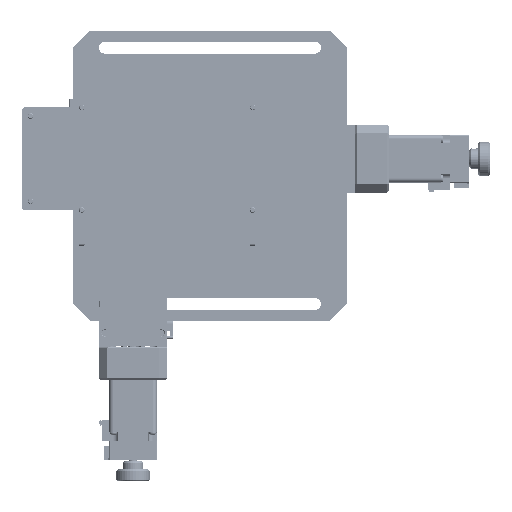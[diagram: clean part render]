
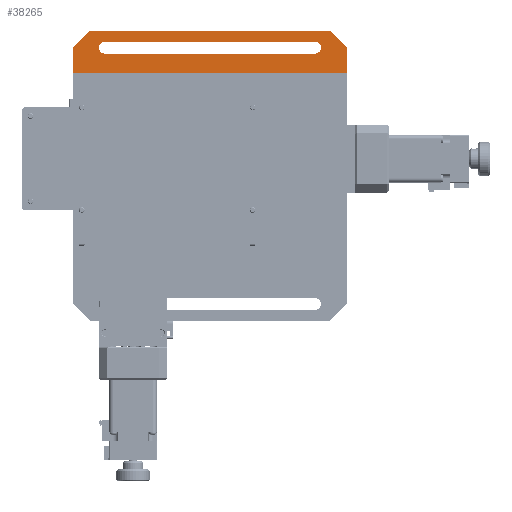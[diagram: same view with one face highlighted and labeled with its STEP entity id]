
A CAD part, front view. The second image highlights one B-rep face of the part: STEP entity #38265.
In plain terms, the highlighted planar face has unit normal (0, -1, 0).
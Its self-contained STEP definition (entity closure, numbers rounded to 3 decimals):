
#5330 = AXIS2_PLACEMENT_3D ( 'NONE', #70477, #242514, #40203 ) ;
#6389 = CARTESIAN_POINT ( 'NONE',  ( 18.5, 0., -6.5 ) ) ;
#14537 = ORIENTED_EDGE ( 'NONE', *, *, #252549, .T. ) ;
#14556 = CARTESIAN_POINT ( 'NONE',  ( 18.5, 0., -10. ) ) ;
#15048 = VERTEX_POINT ( 'NONE', #129120 ) ;
#17101 = DIRECTION ( 'NONE',  ( 0., -1., 0. ) ) ;
#17164 = FACE_BOUND ( 'NONE', #342470, .T. ) ;
#25583 = LINE ( 'NONE', #219428, #315828 ) ;
#37543 = CARTESIAN_POINT ( 'NONE',  ( 0., 0., -25. ) ) ;
#38265 = ADVANCED_FACE ( 'NONE', ( #44327, #17164 ), #163676, .T. ) ;
#40203 = DIRECTION ( 'NONE',  ( -1., 0., 0. ) ) ;
#40390 = VERTEX_POINT ( 'NONE', #250530 ) ;
#44327 = FACE_OUTER_BOUND ( 'NONE', #211288, .T. ) ;
#46120 = DIRECTION ( 'NONE',  ( -1., 0., 0. ) ) ;
#46131 = CARTESIAN_POINT ( 'NONE',  ( 160., 0., -10. ) ) ;
#49728 = ORIENTED_EDGE ( 'NONE', *, *, #164185, .T. ) ;
#64185 = VERTEX_POINT ( 'NONE', #6389 ) ;
#67518 = ORIENTED_EDGE ( 'NONE', *, *, #280342, .T. ) ;
#70477 = CARTESIAN_POINT ( 'NONE',  ( 141.5, 0., -10. ) ) ;
#90569 = CARTESIAN_POINT ( 'NONE',  ( 150., 0., 0. ) ) ;
#93382 = VERTEX_POINT ( 'NONE', #37543 ) ;
#109615 = ORIENTED_EDGE ( 'NONE', *, *, #189645, .T. ) ;
#116813 = VERTEX_POINT ( 'NONE', #119126 ) ;
#119126 = CARTESIAN_POINT ( 'NONE',  ( 18.5, 0., -13.5 ) ) ;
#121751 = LINE ( 'NONE', #212228, #225854 ) ;
#122411 = ORIENTED_EDGE ( 'NONE', *, *, #358887, .T. ) ;
#125932 = VERTEX_POINT ( 'NONE', #250113 ) ;
#129120 = CARTESIAN_POINT ( 'NONE',  ( 160., 0., -10. ) ) ;
#133412 = DIRECTION ( 'NONE',  ( 0., 0., -1. ) ) ;
#134179 = ORIENTED_EDGE ( 'NONE', *, *, #337699, .T. ) ;
#141648 = EDGE_CURVE ( 'NONE', #15048, #318938, #310956, .T. ) ;
#145213 = CARTESIAN_POINT ( 'NONE',  ( 10., 0., 0. ) ) ;
#157379 = DIRECTION ( 'NONE',  ( 0., 0., -1. ) ) ;
#163676 = PLANE ( 'NONE',  #213227 ) ;
#164185 = EDGE_CURVE ( 'NONE', #125932, #15048, #192016, .T. ) ;
#168320 = LINE ( 'NONE', #185253, #281626 ) ;
#175070 = ORIENTED_EDGE ( 'NONE', *, *, #141648, .T. ) ;
#178662 = AXIS2_PLACEMENT_3D ( 'NONE', #14556, #333456, #157379 ) ;
#180601 = DIRECTION ( 'NONE',  ( -1., 0., 0. ) ) ;
#185253 = CARTESIAN_POINT ( 'NONE',  ( 160., 0., -25. ) ) ;
#185499 = VECTOR ( 'NONE', #278199, 1000. ) ;
#186499 = DIRECTION ( 'NONE',  ( -1., 0., 0. ) ) ;
#189645 = EDGE_CURVE ( 'NONE', #40390, #293369, #294039, .T. ) ;
#190679 = CARTESIAN_POINT ( 'NONE',  ( 160., 0., -25. ) ) ;
#192016 = LINE ( 'NONE', #190679, #264677 ) ;
#198294 = CARTESIAN_POINT ( 'NONE',  ( 10., 0., 0. ) ) ;
#207137 = EDGE_CURVE ( 'NONE', #125932, #93382, #168320, .T. ) ;
#208306 = CARTESIAN_POINT ( 'NONE',  ( 141.5, 0., -13.5 ) ) ;
#209910 = VERTEX_POINT ( 'NONE', #198294 ) ;
#211288 = EDGE_LOOP ( 'NONE', ( #49728, #175070, #134179, #14537, #122411, #294071 ) ) ;
#212228 = CARTESIAN_POINT ( 'NONE',  ( 150., 0., 0. ) ) ;
#213227 = AXIS2_PLACEMENT_3D ( 'NONE', #366308, #17101, #46120 ) ;
#219428 = CARTESIAN_POINT ( 'NONE',  ( 0., 0., -10. ) ) ;
#220659 = DIRECTION ( 'NONE',  ( -0.707, 0., 0.707 ) ) ;
#225854 = VECTOR ( 'NONE', #180601, 1000. ) ;
#233786 = VECTOR ( 'NONE', #220659, 1000. ) ;
#241455 = LINE ( 'NONE', #246984, #327392 ) ;
#242514 = DIRECTION ( 'NONE',  ( 0., 1., 0. ) ) ;
#246984 = CARTESIAN_POINT ( 'NONE',  ( 18.5, 0., -6.5 ) ) ;
#247452 = ORIENTED_EDGE ( 'NONE', *, *, #361628, .T. ) ;
#248828 = LINE ( 'NONE', #145213, #262333 ) ;
#250113 = CARTESIAN_POINT ( 'NONE',  ( 160., 0., -25. ) ) ;
#250530 = CARTESIAN_POINT ( 'NONE',  ( 141.5, 0., -6.5 ) ) ;
#252549 = EDGE_CURVE ( 'NONE', #209910, #283854, #248828, .T. ) ;
#262333 = VECTOR ( 'NONE', #349187, 1000. ) ;
#262444 = LINE ( 'NONE', #363163, #185499 ) ;
#264677 = VECTOR ( 'NONE', #337673, 1000. ) ;
#278199 = DIRECTION ( 'NONE',  ( -1., 0., 0. ) ) ;
#280342 = EDGE_CURVE ( 'NONE', #293369, #116813, #262444, .T. ) ;
#281626 = VECTOR ( 'NONE', #186499, 1000. ) ;
#283854 = VERTEX_POINT ( 'NONE', #313818 ) ;
#293369 = VERTEX_POINT ( 'NONE', #208306 ) ;
#294039 = CIRCLE ( 'NONE', #5330, 3.5 ) ;
#294071 = ORIENTED_EDGE ( 'NONE', *, *, #207137, .F. ) ;
#302885 = CIRCLE ( 'NONE', #178662, 3.5 ) ;
#310956 = LINE ( 'NONE', #46131, #233786 ) ;
#313818 = CARTESIAN_POINT ( 'NONE',  ( 0., 0., -10. ) ) ;
#315828 = VECTOR ( 'NONE', #133412, 1000. ) ;
#318938 = VERTEX_POINT ( 'NONE', #90569 ) ;
#327196 = ORIENTED_EDGE ( 'NONE', *, *, #328476, .T. ) ;
#327392 = VECTOR ( 'NONE', #342023, 1000. ) ;
#328476 = EDGE_CURVE ( 'NONE', #116813, #64185, #302885, .T. ) ;
#333456 = DIRECTION ( 'NONE',  ( 0., 1., 0. ) ) ;
#337673 = DIRECTION ( 'NONE',  ( 0., 0., 1. ) ) ;
#337699 = EDGE_CURVE ( 'NONE', #318938, #209910, #121751, .T. ) ;
#342023 = DIRECTION ( 'NONE',  ( 1., 0., 0. ) ) ;
#342470 = EDGE_LOOP ( 'NONE', ( #327196, #247452, #109615, #67518 ) ) ;
#349187 = DIRECTION ( 'NONE',  ( -0.707, 0., -0.707 ) ) ;
#358887 = EDGE_CURVE ( 'NONE', #283854, #93382, #25583, .T. ) ;
#361628 = EDGE_CURVE ( 'NONE', #64185, #40390, #241455, .T. ) ;
#363163 = CARTESIAN_POINT ( 'NONE',  ( 141.5, 0., -13.5 ) ) ;
#366308 = CARTESIAN_POINT ( 'NONE',  ( 170., 0., 2.5 ) ) ;
